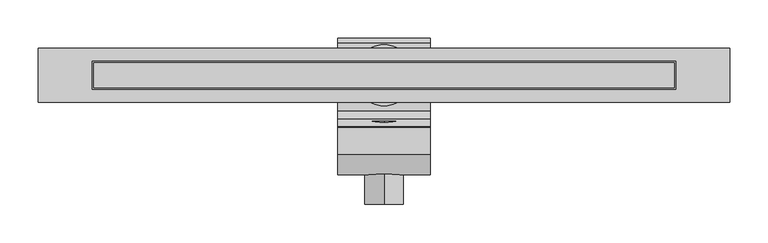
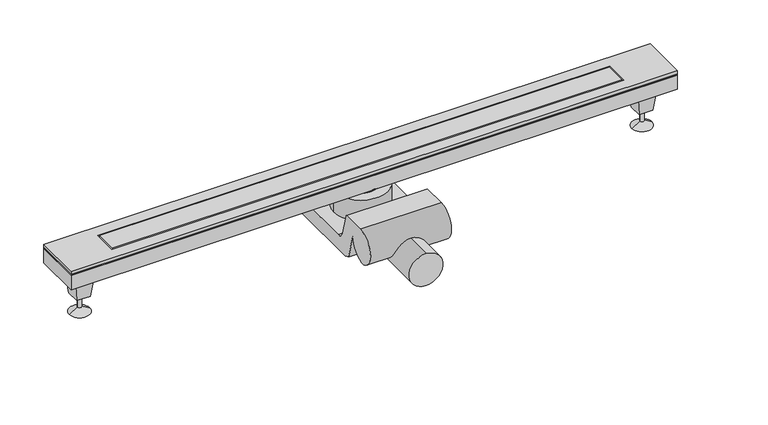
"""IFC4 building model written with IfcOpenShell, lengths in millimetres: sanitary terminal geometry, NLRS_PF_52_UN_XS Z4 Complete Set_Easydrain : XS-Z4 Brushed."""

from ifc_helpers import new_model, si_unit, point, frame, frame_2d, origin, origin_2d, place, context, project, spatial, polyline, circle_curve, trimmed, segment, composite_curve, outline, extrude, faceted_brep, source, transform, mapped, element, save
from ifc_brep_helpers import plane_surface, cylinder_surface, revolved_surface, advanced_brep


def sanitary_terminal_f49d5aff(model_context):
    return source(origin(), model_context, "Body", "SolidModel", [
        extrude(outline(composite_curve([segment(trimmed(circle_curve(frame_2d((-74.0, 0.0)), 25.0), [point((-99.0, 0.0))], [point((-49.0, 0.0))], False, "CARTESIAN"), True, "CONTINUOUS"), segment(trimmed(circle_curve(frame_2d((-74.0, 0.0)), 25.0), [point((-49.0, 0.0))], [point((-99.0, 0.0))], False, "CARTESIAN"), True, "CONTINUOUS")], self_intersect=False)), frame((0.0, -168.0, 0.0), z_axis=(0.0, 1.0, 0.0), x_axis=(0.0, 0.0, 1.0)), (0.0, 0.0, 1.0), 108.0),
        extrude(outline(composite_curve([segment(trimmed(circle_curve(frame_2d((43.3675767, -90.3675767)), 4.6324233), [point((48.0, -90.3675767))], [point((43.3675767, -95.0))], False, "CARTESIAN"), True, "CONTINUOUS"), segment(polyline([(43.3675767, -95.0), (-60.0, -95.0)]), True, "CONTINUOUS"), segment(trimmed(circle_curve(frame_2d((-57.5994856, -66.0429208)), 29.056409), [point((-60.0, -95.0))], [point((-73.552105, -90.3284894))], False, "CARTESIAN"), True, "CONTINUOUS"), segment(polyline([(-73.552105, -90.3284894), (-84.1621521, -51.5447741)]), True, "CONTINUOUS"), segment(trimmed(circle_curve(frame_2d((-112.4464233, -51.5447741)), 28.2842712), [point((-84.1621521, -51.5447741))], [point((-112.4464233, -79.8290454))], False, "CARTESIAN"), True, "CONTINUOUS"), segment(trimmed(circle_curve(frame_2d((-102.9818456, -55.2956944)), 26.2956944), [point((-112.4464233, -79.8290454))], [point((-102.9818456, -29.0))], False, "CARTESIAN"), True, "CONTINUOUS"), segment(polyline([(-102.9818456, -29.0), (-67.7157548, -29.0)]), True, "CONTINUOUS"), segment(trimmed(circle_curve(frame_2d((-72.2174189, -34.731688)), 7.2881566), [point((-67.7157548, -29.0))], [point((-66.5178956, -30.189369))], False, "CARTESIAN"), True, "CONTINUOUS"), segment(polyline([(-66.5178956, -30.189369), (-57.3528508, -63.0)]), True, "CONTINUOUS"), segment(trimmed(circle_curve(frame_2d((-46.2657703, -60.6709247)), 11.3290753), [point((-57.3528508, -63.0))], [point((-46.2657703, -72.0))], True, "CARTESIAN"), True, "CONTINUOUS"), segment(polyline([(-46.2657703, -72.0), (42.6324233, -72.0)]), True, "CONTINUOUS"), segment(trimmed(circle_curve(frame_2d((42.6324233, -77.3675767)), 5.3675767), [point((42.6324233, -72.0))], [point((48.0, -77.3675767))], False, "CARTESIAN"), True, "CONTINUOUS"), segment(polyline([(48.0, -77.3675767), (48.0, -90.3675767)]), True, "CONTINUOUS")], self_intersect=False)), frame((-60.0, 0.0, 0.0), z_axis=(1.0, 0.0, 0.0), x_axis=(0.0, 1.0, 0.0)), (0.0, 0.0, 1.0), 120.0),
        extrude(outline(composite_curve([segment(trimmed(circle_curve(origin_2d(), 40.0), [point((-40.0, 0.0))], [point((40.0, 0.0))], False, "CARTESIAN"), True, "CONTINUOUS"), segment(trimmed(circle_curve(origin_2d(), 40.0), [point((40.0, 0.0))], [point((-40.0, 0.0))], False, "CARTESIAN"), True, "CONTINUOUS")], self_intersect=False)), frame((0.0, 0.0, -72.0), z_axis=(0.0, 0.0, 1.0), x_axis=(1.0, 0.0, 0.0)), (0.0, 0.0, 1.0), 33.0),
        extrude(outline(composite_curve([segment(trimmed(circle_curve(origin_2d(), 25.0), [point((-25.0, 0.0))], [point((25.0, 0.0))], False, "CARTESIAN"), True, "CONTINUOUS"), segment(trimmed(circle_curve(origin_2d(), 25.0), [point((25.0, 0.0))], [point((-25.0, 0.0))], False, "CARTESIAN"), True, "CONTINUOUS")], self_intersect=False)), frame((0.0, 0.0, -39.0), z_axis=(0.0, 0.0, 1.0), x_axis=(1.0, 0.0, 0.0)), (0.0, 0.0, 1.0), 10.0),
        advanced_brep(
        [(420.5, 0.0, -69.0), (414.5, 0.0, -69.0), (417.5, 0.0, -69.0), (420.5, 0.0, -87.5), (414.5, 0.0, -87.5), (432.5, 0.0, -95.0), (402.5, 0.0, -95.0), (417.5, 0.0, -95.0)],
        [
            (0, 1, circle_curve(frame((417.5, 0.0, -69.0), z_axis=(0.0, 0.0, 1.0), x_axis=(-1.0, 0.0, 0.0)), 3.0)),
            (1, 2),
            (2, 0),
            (1, 0, circle_curve(frame((417.5, 0.0, -69.0), z_axis=(0.0, 0.0, 1.0), x_axis=(-1.0, 0.0, 0.0)), 3.0)),
            (3, 4, circle_curve(frame((417.5, 0.0, -87.5), z_axis=(0.0, 0.0, 1.0), x_axis=(-1.0, 0.0, 0.0)), 3.0)),
            (4, 1),
            (0, 3),
            (4, 3, circle_curve(frame((417.5, 0.0, -87.5), z_axis=(0.0, 0.0, 1.0), x_axis=(-1.0, 0.0, 0.0)), 3.0)),
            (5, 6, circle_curve(frame((417.5, 0.0, -95.0), z_axis=(0.0, 0.0, 1.0), x_axis=(-1.0, 0.0, 0.0)), 15.0)),
            (6, 4),
            (3, 5),
            (6, 5, circle_curve(frame((417.5, 0.0, -95.0), z_axis=(0.0, 0.0, 1.0), x_axis=(-1.0, 0.0, 0.0)), 15.0)),
            (7, 6),
            (5, 7),
        ],
        [
            plane_surface(frame((417.5, 0.0, -69.0), z_axis=(0.0, 0.0, 1.0), x_axis=(-1.0, 0.0, 0.0))),
            cylinder_surface(frame((417.5, 0.0, -103.1782032), z_axis=(0.0, 0.0, -1.0), x_axis=(-1.0, 0.0, 0.0)), 3.0),
            revolved_surface(polyline([(414.5, 0.0, -87.5), (402.5, 0.0, -95.0)]), (417.5, 0.0, -103.1782032), (0.0, 0.0, -1.0)),
            plane_surface(frame((417.5, 0.0, -95.0), z_axis=(0.0, 0.0, -1.0), x_axis=(-1.0, 0.0, 0.0))),
        ],
        [
            (0, [[1, 2, 3]]),
            (0, [[4, -3, -2]]),
            (1, [[5, 6, -1, 7]]),
            (1, [[8, -7, -4, -6]]),
            (2, [[9, 10, -5, 11]]),
            (2, [[12, -11, -8, -10]]),
            (3, [[13, -9, 14]]),
            (3, [[-14, -12, -13]]),
        ],
    ),
        faceted_brep([(407.5, 10.0, -69.0), (427.5, 10.0, -69.0), (427.5, -10.0, -69.0), (407.5, -10.0, -69.0), (402.5, 15.0, -29.0), (402.5, -15.0, -29.0), (432.5, -15.0, -29.0), (432.5, 15.0, -29.0)], [[[0, 1, 2, 3]], [[4, 5, 6, 7]], [[5, 4, 0, 3]], [[6, 5, 3, 2]], [[7, 6, 2, 1]], [[4, 7, 1, 0]]]),
        advanced_brep(
        [(-414.5, 0.0, -69.0), (-420.5, 0.0, -69.0), (-417.5, 0.0, -69.0), (-414.5, 0.0, -87.5), (-420.5, 0.0, -87.5), (-402.5, 0.0, -95.0), (-432.5, 0.0, -95.0), (-417.5, 0.0, -95.0)],
        [
            (0, 1, circle_curve(frame((-417.5, 0.0, -69.0), z_axis=(0.0, 0.0, 1.0), x_axis=(-1.0, 0.0, 0.0)), 3.0)),
            (1, 2),
            (2, 0),
            (1, 0, circle_curve(frame((-417.5, 0.0, -69.0), z_axis=(0.0, 0.0, 1.0), x_axis=(-1.0, 0.0, 0.0)), 3.0)),
            (3, 4, circle_curve(frame((-417.5, 0.0, -87.5), z_axis=(0.0, 0.0, 1.0), x_axis=(-1.0, 0.0, 0.0)), 3.0)),
            (4, 1),
            (0, 3),
            (4, 3, circle_curve(frame((-417.5, 0.0, -87.5), z_axis=(0.0, 0.0, 1.0), x_axis=(-1.0, 0.0, 0.0)), 3.0)),
            (5, 6, circle_curve(frame((-417.5, 0.0, -95.0), z_axis=(0.0, 0.0, 1.0), x_axis=(-1.0, 0.0, 0.0)), 15.0)),
            (6, 4),
            (3, 5),
            (6, 5, circle_curve(frame((-417.5, 0.0, -95.0), z_axis=(0.0, 0.0, 1.0), x_axis=(-1.0, 0.0, 0.0)), 15.0)),
            (7, 6),
            (5, 7),
        ],
        [
            plane_surface(frame((-417.5, 0.0, -69.0), z_axis=(0.0, 0.0, 1.0), x_axis=(-1.0, 0.0, 0.0))),
            cylinder_surface(frame((-417.5, 0.0, -103.1782032), z_axis=(0.0, 0.0, -1.0), x_axis=(-1.0, 0.0, 0.0)), 3.0),
            revolved_surface(polyline([(-420.5, 0.0, -87.5), (-432.5, 0.0, -95.0)]), (-417.5, 0.0, -103.1782032), (0.0, 0.0, -1.0)),
            plane_surface(frame((-417.5, 0.0, -95.0), z_axis=(0.0, 0.0, -1.0), x_axis=(-1.0, 0.0, 0.0))),
        ],
        [
            (0, [[1, 2, 3]]),
            (0, [[4, -3, -2]]),
            (1, [[5, 6, -1, 7]]),
            (1, [[8, -7, -4, -6]]),
            (2, [[9, 10, -5, 11]]),
            (2, [[12, -11, -8, -10]]),
            (3, [[13, -9, 14]]),
            (3, [[-14, -12, -13]]),
        ],
    ),
        faceted_brep([(-427.5, 10.0, -69.0), (-407.5, 10.0, -69.0), (-407.5, -10.0, -69.0), (-427.5, -10.0, -69.0), (-432.5, 15.0, -29.0), (-432.5, -15.0, -29.0), (-402.5, -15.0, -29.0), (-402.5, 15.0, -29.0)], [[[0, 1, 2, 3]], [[4, 5, 6, 7]], [[5, 4, 0, 3]], [[6, 5, 3, 2]], [[7, 6, 2, 1]], [[4, 7, 1, 0]]]),
        extrude(outline(polyline([(450.0, 35.0), (450.0, -35.0), (-450.0, -35.0), (-450.0, 35.0), (450.0, 35.0)])), frame((0.0, 0.0, -6.4659054), z_axis=(0.0, 0.0, 1.0), x_axis=(1.0, 0.0, 0.0)), (0.0, 0.0, 1.0), 1.4659054),
        advanced_brep(
        [(-35.0, 0.0, -29.0), (35.0, 0.0, -29.0), (-25.0, 0.0, -5.0), (25.0, 0.0, -5.0)],
        [
            (0, 1, circle_curve(frame((0.0, 0.0, -29.0), z_axis=(0.0, 0.0, -1.0), x_axis=(-1.0, 0.0, 0.0)), 35.0)),
            (1, 0, circle_curve(frame((0.0, 0.0, -29.0), z_axis=(0.0, 0.0, -1.0), x_axis=(1.0, 0.0, 0.0)), 35.0)),
            (2, 3, circle_curve(frame((0.0, 0.0, -5.0), z_axis=(0.0, 0.0, 1.0), x_axis=(1.0, 0.0, 0.0)), 25.0)),
            (3, 2, circle_curve(frame((0.0, 0.0, -5.0), z_axis=(0.0, 0.0, 1.0), x_axis=(-1.0, 0.0, 0.0)), 25.0)),
            (2, 0),
            (1, 3),
        ],
        [
            plane_surface(frame((0.0, 0.0, -29.0), z_axis=(0.0, 0.0, -1.0), x_axis=(0.0, -1.0, 0.0))),
            plane_surface(frame((0.0, 0.0, -5.0), z_axis=(0.0, 0.0, 1.0), x_axis=(0.0, -1.0, 0.0))),
            revolved_surface(polyline([(-25.0, 0.0, -5.0), (-35.0, 0.0, -29.0)]), (0.0, 0.0, 55.0), (0.0, 0.0, -1.0)),
            revolved_surface(polyline([(25.0, 0.0, -5.0), (35.0, 0.0, -29.0)]), (0.0, 0.0, 55.0), (0.0, 0.0, -1.0)),
        ],
        [
            (0, [[1, 2]]),
            (1, [[3, 4]]),
            (2, [[-3, 5, -2, 6]]),
            (3, [[-4, -6, -1, -5]]),
        ],
    ),
        extrude(outline(polyline([(450.0, 35.0), (450.0, -35.0), (-450.0, -35.0), (-450.0, 35.0), (450.0, 35.0)])), frame((0.0, 0.0, -29.0), z_axis=(0.0, 0.0, 1.0), x_axis=(1.0, 0.0, 0.0)), (0.0, 0.0, 1.0), 24.0),
        extrude(outline(polyline([(450.0, 35.0), (450.0, -35.0), (-450.0, -35.0), (-450.0, 35.0), (450.0, 35.0)]), holes=[polyline([(380.0, 18.0), (-380.0, 18.0), (-380.0, -18.0), (380.0, -18.0), (380.0, 18.0)])]), frame((0.0, 0.0, -5.0), z_axis=(0.0, 0.0, 1.0), x_axis=(1.0, 0.0, 0.0)), (0.0, 0.0, 1.0), 5.0),
        extrude(outline(polyline([(378.0, 16.0), (378.0, -16.0), (-378.0, -16.0), (-378.0, 16.0), (378.0, 16.0)])), frame((0.0, 0.0, -5.0), z_axis=(0.0, 0.0, 1.0), x_axis=(1.0, 0.0, 0.0)), (0.0, 0.0, 1.0), 5.0),
    ])


if __name__ == "__main__":
    model = new_model("IFC4")
    model_context = context("Model", 3, world=origin())
    ifc_project = project(units=[si_unit("LENGTHUNIT", "METRE", prefix="MILLI")], contexts=[model_context])
    site = spatial("IfcSite", under=ifc_project)
    building = spatial("IfcBuilding", under=site)
    placement = place(None, origin())
    sanitary_terminal_shape = sanitary_terminal_f49d5aff(model_context)
    element("IfcSanitaryTerminal", 1, ObjectType="NLRS_PF_52_UN_XS Z4 Complete Set_Easydrain : XS-Z4 Brushed", at=placement, inside=building, context=model_context, shape_type="MappedRepresentation", body=[
        mapped(sanitary_terminal_shape, transform((0.0, 0.0, 0.0), x_axis=(1.0, 0.0, 0.0), y_axis=(0.0, 1.0, 0.0), z_axis=(0.0, 0.0, 1.0))),
    ])
    save(model, "model.ifc")
